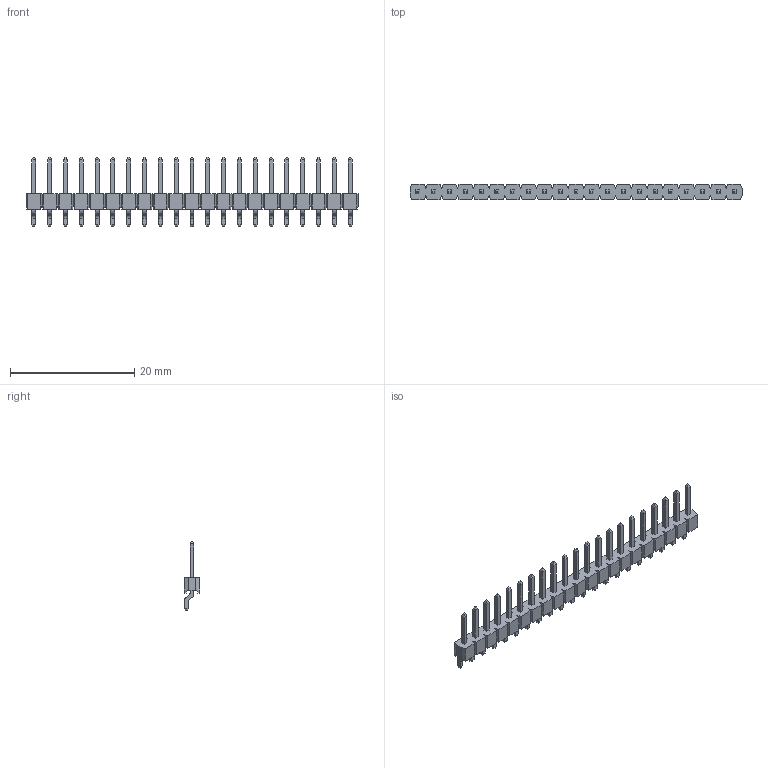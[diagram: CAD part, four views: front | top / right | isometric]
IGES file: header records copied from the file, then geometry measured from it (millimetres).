
Global section: file name: N:\ESD\Matthias\GolfVI\2184\UG files\Part Family\961121-5500-XX-XX.igs; native system: NX V5.0; preprocessor: UGS NX IGES V5.0; date: 20080611.131300; units: millimetre
Bounding box: 53.34 x 2.5 x 11.1 mm (x, y, z)
Surface area: 1116 mm2 (no closed solid volume)
Topology: 0 solids, 0 shells, 760 faces, 3961 edges, 3961 vertices
Faces by surface type: bspline 760
